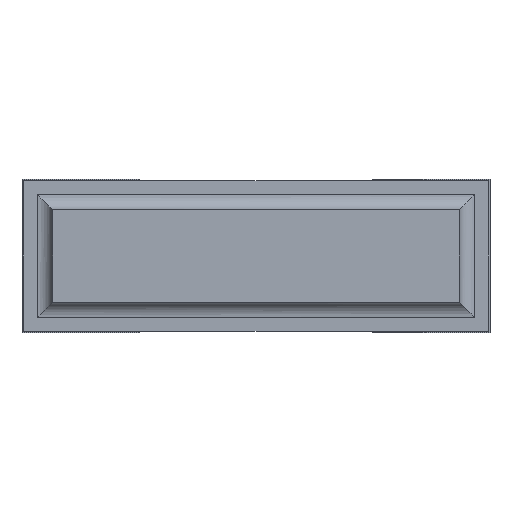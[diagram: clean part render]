
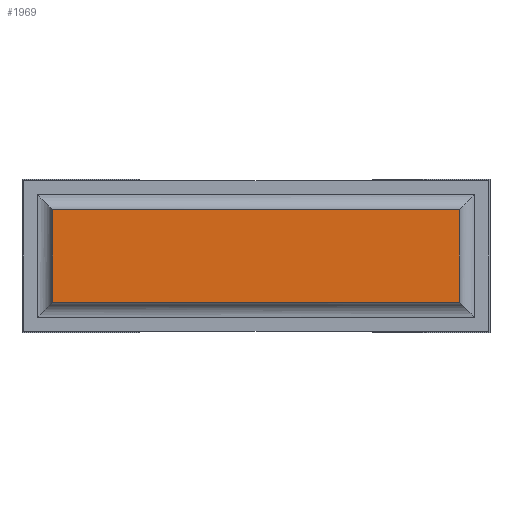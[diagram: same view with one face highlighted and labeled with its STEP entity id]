
A CAD part, front view. The second image highlights one B-rep face of the part: STEP entity #1969.
In plain terms, the highlighted planar face has unit normal (0, -1, 0).
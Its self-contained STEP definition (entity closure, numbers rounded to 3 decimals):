
#119=FACE_OUTER_BOUND('',#241,.T.);
#241=EDGE_LOOP('',(#1459,#1460,#1461,#1462));
#398=LINE('',#2922,#650);
#404=LINE('',#2938,#656);
#407=LINE('',#2947,#659);
#409=LINE('',#2951,#661);
#650=VECTOR('',#2360,10.);
#656=VECTOR('',#2374,10.);
#659=VECTOR('',#2389,10.);
#661=VECTOR('',#2395,10.);
#883=VERTEX_POINT('',#2919);
#884=VERTEX_POINT('',#2921);
#888=VERTEX_POINT('',#2932);
#890=VERTEX_POINT('',#2936);
#1082=EDGE_CURVE('',#884,#883,#398,.T.);
#1090=EDGE_CURVE('',#888,#890,#404,.T.);
#1095=EDGE_CURVE('',#883,#888,#407,.T.);
#1097=EDGE_CURVE('',#890,#884,#409,.T.);
#1459=ORIENTED_EDGE('',*,*,#1082,.T.);
#1460=ORIENTED_EDGE('',*,*,#1095,.T.);
#1461=ORIENTED_EDGE('',*,*,#1090,.T.);
#1462=ORIENTED_EDGE('',*,*,#1097,.T.);
#1865=PLANE('',#2123);
#1969=ADVANCED_FACE('',(#119),#1865,.T.);
#2123=AXIS2_PLACEMENT_3D('',#2954,#2399,#2400);
#2360=DIRECTION('',(0.,0.,-1.));
#2374=DIRECTION('',(0.,0.,1.));
#2389=DIRECTION('',(1.,0.,0.));
#2395=DIRECTION('',(-1.,0.,0.));
#2399=DIRECTION('center_axis',(0.,-1.,0.));
#2400=DIRECTION('ref_axis',(0.,0.,-1.));
#2919=CARTESIAN_POINT('',(0.1,0.,0.1));
#2921=CARTESIAN_POINT('',(0.1,0.,0.4));
#2922=CARTESIAN_POINT('',(0.1,0.,0.4));
#2932=CARTESIAN_POINT('',(1.42,0.,0.1));
#2936=CARTESIAN_POINT('',(1.42,0.,0.4));
#2938=CARTESIAN_POINT('',(1.42,0.,0.1));
#2947=CARTESIAN_POINT('',(0.1,0.,0.1));
#2951=CARTESIAN_POINT('',(1.42,0.,0.4));
#2954=CARTESIAN_POINT('Origin',(0.1,0.,0.25));
